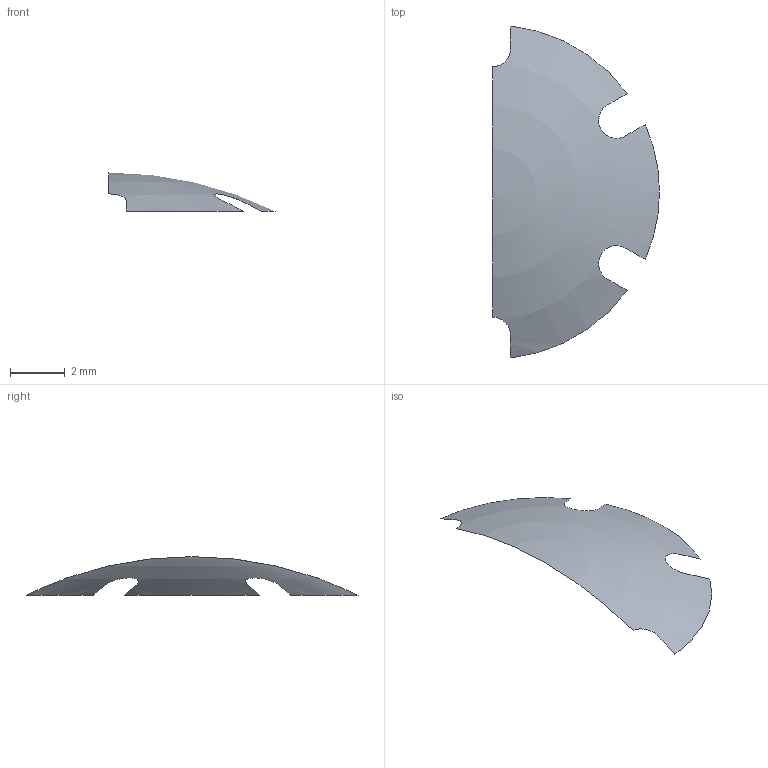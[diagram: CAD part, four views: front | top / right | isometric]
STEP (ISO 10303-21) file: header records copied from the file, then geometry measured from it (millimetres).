
FILE_DESCRIPTION(('BRL-CAD minimized periodic repair regression'),'2;1');
FILE_NAME('ap214_multiperiod_face_repair.stp','2026-07-24T00:00:00',('BRL-CAD'),('BRL-CAD'),'','','');
FILE_SCHEMA(('AUTOMOTIVE_DESIGN { 1 0 10303 214 3 1 1 1 }'));
Length unit declared in the file: millimetre
Products named in the file (1): multiperiod_face_repair
Bounding box: 6.12 x 12.18 x 1.42 mm (x, y, z)
Surface area: 56.2 mm2 (no closed solid volume)
Topology: 0 solids, 1 shells, 1 faces, 19 edges, 18 vertices
Faces by surface type: sphere 1
Entity records: 215 total; most frequent: CARTESIAN_POINT 93, DIRECTION 24, VERTEX_POINT 17, EDGE_CURVE 17, ORIENTED_EDGE 17, AXIS2_PLACEMENT_3D 12, CIRCLE 11, B_SPLINE_CURVE_WITH_KNOTS 6
